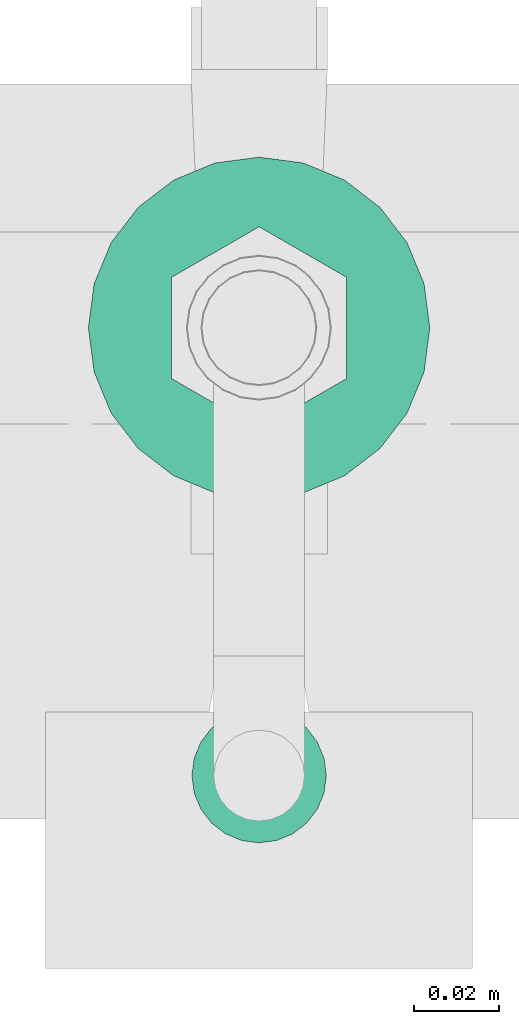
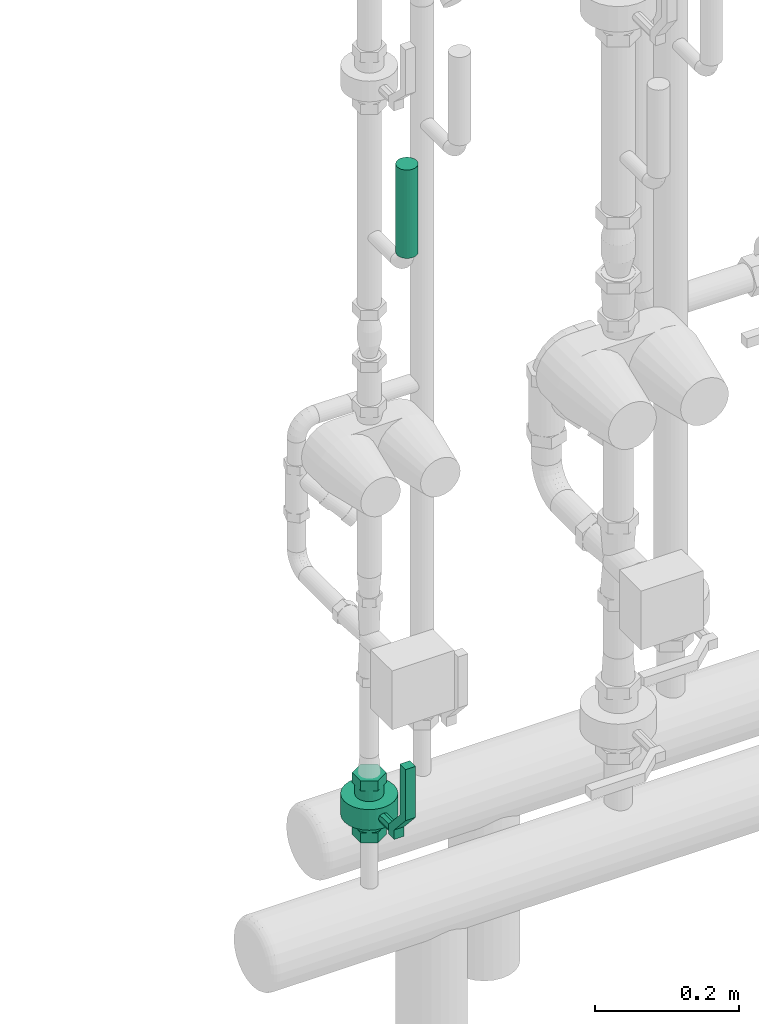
# One storey, part 79 of 374: 1 distribution control element, 1 flow controller.
"""IFC2X3 building model written with IfcOpenShell, lengths in metres."""

from ifc_helpers import new_model, si_unit, direction, origin, place, context, subcontext, project, spatial, open_shell, surface_model, source, transform, mapped, element, save


model = new_model("IFC2X3")

# Units and contexts
model_context = context("Model", 3, precision=1e-05, world=origin(), true_north=direction((-0.4480736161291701, 0.8939966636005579)))
body_context = subcontext(model_context, "Body", "Model", "MODEL_VIEW")
ifc_project = project(units=[si_unit("LENGTHUNIT", "METRE"), si_unit("AREAUNIT", "SQUARE_METRE"), si_unit("VOLUMEUNIT", "CUBIC_METRE"), si_unit("PLANEANGLEUNIT", "RADIAN"), si_unit("THERMODYNAMICTEMPERATUREUNIT", "KELVIN"), si_unit("MASSUNIT", "GRAM", prefix="KILO"), si_unit("TIMEUNIT", "SECOND")], contexts=[model_context])

# Site, building, storey
site_placement = place(None, origin())
site = spatial("IfcSite", under=ifc_project, at=site_placement, Name="Site 1", CompositionType="ELEMENT")
building_placement = place(site_placement, origin())
building = spatial("IfcBuilding", under=site, at=building_placement, Name="Undefined", CompositionType="ELEMENT")
storey_placement = place(building_placement, origin())
storey = spatial("IfcBuildingStorey", under=building, at=storey_placement, Name="Rez de chauss\x8ee", CompositionType="ELEMENT", Elevation=0.0)

# Flow controller
shared_shape_1 = source(origin(), body_context, "Body", "SurfaceModel", [
    surface_model("IfcFaceBasedSurfaceModel", [(0.0, 0.0, 0.0), (0.016000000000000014, 0.0, 0.0), (0.016000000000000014, 0.015999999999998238, 0.0), (0.0, 0.015999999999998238, 0.0), (0.016000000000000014, 0.0, 0.016000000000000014), (0.016000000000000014, 0.015999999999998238, 0.016000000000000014), (0.0, 0.0, 0.016000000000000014), (0.0, 0.015999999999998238, 0.016000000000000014), (-0.03533333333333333, 0.0, 0.04800000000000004), (-0.03533333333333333, 0.015999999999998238, 0.04800000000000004), (-0.122, 0.0, 0.04800000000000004), (-0.122, 0.015999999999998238, 0.04800000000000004), (-0.122, 0.0, 0.03200000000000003), (-0.122, 0.015999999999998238, 0.03200000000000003), (-0.03533333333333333, 0.0, 0.03200000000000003), (-0.03533333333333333, 0.015999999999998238, 0.03200000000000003), (0.060500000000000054, 0.02850000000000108, -0.0788356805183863), (0.060500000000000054, 0.02850000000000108, -0.05516431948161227), (0.04370000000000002, 0.02850000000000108, -0.05516431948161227), (0.04370000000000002, 0.02850000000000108, -0.0788356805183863), (0.060500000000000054, 0.008000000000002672, -0.0906713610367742), (0.04370000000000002, 0.008000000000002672, -0.0906713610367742), (0.060500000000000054, -0.012500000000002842, -0.0788356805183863), (0.04370000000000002, -0.012500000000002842, -0.0788356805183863), (0.060500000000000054, -0.012500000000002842, -0.05516431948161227), (0.04370000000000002, -0.012500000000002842, -0.05516431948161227), (0.060500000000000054, 0.008000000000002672, -0.043328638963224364), (0.04370000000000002, 0.008000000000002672, -0.043328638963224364), (0.04370000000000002, -0.012500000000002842, -0.06700000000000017), (0.04370000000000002, -0.011801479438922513, -0.06169420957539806), (0.025500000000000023, -0.011801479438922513, -0.06169420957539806), (0.025500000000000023, -0.012500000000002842, -0.06700000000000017), (0.04370000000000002, -0.009753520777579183, -0.05674999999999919), (0.025500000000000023, -0.009753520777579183, -0.05674999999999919), (0.04370000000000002, -0.006495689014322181, -0.05250431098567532), (0.025500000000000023, -0.006495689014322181, -0.05250431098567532), (0.04370000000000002, -0.002250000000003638, -0.049246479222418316), (0.025500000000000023, -0.002250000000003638, -0.049246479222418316), (0.04370000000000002, 0.0026942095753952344, -0.04719852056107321), (0.025500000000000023, 0.0026942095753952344, -0.04719852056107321), (0.04370000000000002, 0.008000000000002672, -0.046499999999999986), (0.025500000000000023, 0.008000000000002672, -0.046499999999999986), (0.04370000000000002, 0.013305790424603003, -0.04719852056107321), (0.025500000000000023, 0.013305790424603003, -0.04719852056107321), (0.04370000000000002, 0.018250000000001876, -0.049246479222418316), (0.025500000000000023, 0.018250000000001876, -0.049246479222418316), (0.04370000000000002, 0.02249568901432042, -0.05250431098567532), (0.025500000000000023, 0.02249568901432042, -0.05250431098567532), (0.04370000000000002, 0.02575352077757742, -0.05674999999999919), (0.025500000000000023, 0.02575352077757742, -0.05674999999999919), (0.04370000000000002, 0.02780147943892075, -0.06169420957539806), (0.025500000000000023, 0.02780147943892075, -0.06169420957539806), (0.04370000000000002, 0.02850000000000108, -0.06700000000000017), (0.025500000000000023, 0.02850000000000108, -0.06700000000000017), (0.04370000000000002, 0.02780147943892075, -0.0723057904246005), (0.025500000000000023, 0.02780147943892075, -0.0723057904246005), (0.04370000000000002, 0.02575352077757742, -0.07724999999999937), (0.025500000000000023, 0.02575352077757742, -0.07724999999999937), (0.04370000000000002, 0.02249568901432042, -0.08149568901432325), (0.025500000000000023, 0.02249568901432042, -0.08149568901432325), (0.04370000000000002, 0.018250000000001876, -0.08475352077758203), (0.025500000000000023, 0.018250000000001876, -0.08475352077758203), (0.04370000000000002, 0.013305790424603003, -0.08680147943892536), (0.025500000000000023, 0.013305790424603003, -0.08680147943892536), (0.04370000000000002, 0.008000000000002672, -0.08749999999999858), (0.025500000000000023, 0.008000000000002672, -0.08749999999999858), (0.04370000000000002, 0.0026942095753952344, -0.08680147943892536), (0.025500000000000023, 0.0026942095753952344, -0.08680147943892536), (0.04370000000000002, -0.002250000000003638, -0.08475352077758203), (0.025500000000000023, -0.002250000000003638, -0.08475352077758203), (0.04370000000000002, -0.006495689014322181, -0.08149568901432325), (0.025500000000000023, -0.006495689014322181, -0.08149568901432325), (0.04370000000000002, -0.009753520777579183, -0.07724999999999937), (0.025500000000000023, -0.009753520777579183, -0.07724999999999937), (0.04370000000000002, -0.011801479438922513, -0.0723057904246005), (0.025500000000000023, -0.011801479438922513, -0.0723057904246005), (0.025500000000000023, -0.03200000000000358, -0.06700000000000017), (0.025500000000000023, -0.030637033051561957, -0.05664723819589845), (-0.009499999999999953, -0.030637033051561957, -0.05664723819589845), (-0.009499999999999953, -0.03200000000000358, -0.06700000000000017), (0.025500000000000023, -0.02664101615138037, -0.04699999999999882), (-0.009499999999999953, -0.02664101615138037, -0.04699999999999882), (0.025500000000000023, -0.020284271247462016, -0.03871572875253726), (-0.009499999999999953, -0.020284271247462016, -0.03871572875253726), (0.025500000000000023, -0.012000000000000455, -0.03235898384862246), (-0.009499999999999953, -0.012000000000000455, -0.03235898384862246), (0.025500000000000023, -0.002352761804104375, -0.028362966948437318), (-0.009499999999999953, -0.002352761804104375, -0.028362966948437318), (0.025500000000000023, 0.008000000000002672, -0.026999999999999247), (-0.009499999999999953, 0.008000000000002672, -0.026999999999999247), (0.025500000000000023, 0.018352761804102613, -0.028362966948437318), (-0.009499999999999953, 0.018352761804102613, -0.028362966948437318), (0.025500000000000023, 0.027999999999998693, -0.03235898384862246), (-0.009499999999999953, 0.027999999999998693, -0.03235898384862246), (0.025500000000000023, 0.036284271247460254, -0.03871572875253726), (-0.009499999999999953, 0.036284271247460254, -0.03871572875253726), (0.025500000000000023, 0.04264101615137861, -0.04699999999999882), (-0.009499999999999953, 0.04264101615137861, -0.04699999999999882), (0.025500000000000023, 0.046637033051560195, -0.05664723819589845), (-0.009499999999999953, 0.046637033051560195, -0.05664723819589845), (0.025500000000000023, 0.04800000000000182, -0.06700000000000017), (-0.009499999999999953, 0.04800000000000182, -0.06700000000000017), (0.025500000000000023, 0.046637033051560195, -0.07735276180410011), (-0.009499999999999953, 0.046637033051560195, -0.07735276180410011), (0.025500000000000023, 0.04264101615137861, -0.08699999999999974), (-0.009499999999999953, 0.04264101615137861, -0.08699999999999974), (0.025500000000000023, 0.036284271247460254, -0.0952842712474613), (-0.009499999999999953, 0.036284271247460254, -0.0952842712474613), (0.025500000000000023, 0.027999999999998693, -0.10164101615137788), (-0.009499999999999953, 0.027999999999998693, -0.10164101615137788), (0.025500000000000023, 0.018352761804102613, -0.10563703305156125), (-0.009499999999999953, 0.018352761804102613, -0.10563703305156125), (0.025500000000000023, 0.008000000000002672, -0.10699999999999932), (-0.009499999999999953, 0.008000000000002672, -0.10699999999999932), (0.025500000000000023, -0.002352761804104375, -0.10563703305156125), (-0.009499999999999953, -0.002352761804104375, -0.10563703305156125), (0.025500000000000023, -0.012000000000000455, -0.10164101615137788), (-0.009499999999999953, -0.012000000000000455, -0.10164101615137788), (0.025500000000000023, -0.020284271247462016, -0.0952842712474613), (-0.009499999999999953, -0.020284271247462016, -0.0952842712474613), (0.025500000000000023, -0.02664101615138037, -0.08699999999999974), (-0.009499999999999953, -0.02664101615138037, -0.08699999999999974), (0.025500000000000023, -0.030637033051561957, -0.07735276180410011), (-0.009499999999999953, -0.030637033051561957, -0.07735276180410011), (0.025500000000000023, 0.008000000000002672, -0.06700000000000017), (-0.009499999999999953, 0.008000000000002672, -0.06700000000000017), (-0.009499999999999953, -0.012500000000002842, -0.06700000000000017), (-0.009499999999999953, -0.011801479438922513, -0.06169420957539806), (-0.027699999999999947, -0.011801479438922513, -0.06169420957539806), (-0.027699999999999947, -0.012500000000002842, -0.06700000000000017), (-0.009499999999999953, -0.009753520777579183, -0.05674999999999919), (-0.027699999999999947, -0.009753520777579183, -0.05674999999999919), (-0.009499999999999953, -0.006495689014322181, -0.05250431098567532), (-0.027699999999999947, -0.006495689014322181, -0.05250431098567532), (-0.009499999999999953, -0.002250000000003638, -0.049246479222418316), (-0.027699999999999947, -0.002250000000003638, -0.049246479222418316), (-0.009499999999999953, 0.0026942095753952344, -0.04719852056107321), (-0.027699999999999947, 0.0026942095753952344, -0.04719852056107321), (-0.009499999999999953, 0.008000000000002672, -0.046499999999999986), (-0.027699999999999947, 0.008000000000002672, -0.046499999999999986), (-0.009499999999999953, 0.013305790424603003, -0.04719852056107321), (-0.027699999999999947, 0.013305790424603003, -0.04719852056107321), (-0.009499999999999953, 0.018250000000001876, -0.049246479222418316), (-0.027699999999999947, 0.018250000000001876, -0.049246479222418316), (-0.009499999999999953, 0.02249568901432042, -0.05250431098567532), (-0.027699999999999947, 0.02249568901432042, -0.05250431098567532), (-0.009499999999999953, 0.02575352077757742, -0.05674999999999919), (-0.027699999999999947, 0.02575352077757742, -0.05674999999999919), (-0.009499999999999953, 0.02780147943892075, -0.06169420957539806), (-0.027699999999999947, 0.02780147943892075, -0.06169420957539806), (-0.009499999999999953, 0.02850000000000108, -0.06700000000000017), (-0.027699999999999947, 0.02850000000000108, -0.06700000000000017), (-0.009499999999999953, 0.02780147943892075, -0.0723057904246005), (-0.027699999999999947, 0.02780147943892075, -0.0723057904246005), (-0.009499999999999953, 0.02575352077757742, -0.07724999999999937), (-0.027699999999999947, 0.02575352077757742, -0.07724999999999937), (-0.009499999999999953, 0.02249568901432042, -0.08149568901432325), (-0.027699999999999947, 0.02249568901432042, -0.08149568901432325), (-0.009499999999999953, 0.018250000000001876, -0.08475352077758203), (-0.027699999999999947, 0.018250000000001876, -0.08475352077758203), (-0.009499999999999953, 0.013305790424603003, -0.08680147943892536), (-0.027699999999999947, 0.013305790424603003, -0.08680147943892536), (-0.009499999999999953, 0.008000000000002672, -0.08749999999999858), (-0.027699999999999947, 0.008000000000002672, -0.08749999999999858), (-0.009499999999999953, 0.0026942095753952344, -0.08680147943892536), (-0.027699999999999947, 0.0026942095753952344, -0.08680147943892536), (-0.009499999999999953, -0.002250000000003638, -0.08475352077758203), (-0.027699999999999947, -0.002250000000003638, -0.08475352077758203), (-0.009499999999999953, -0.006495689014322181, -0.08149568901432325), (-0.027699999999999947, -0.006495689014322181, -0.08149568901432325), (-0.009499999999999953, -0.009753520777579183, -0.07724999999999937), (-0.027699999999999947, -0.009753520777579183, -0.07724999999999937), (-0.009499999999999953, -0.011801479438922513, -0.0723057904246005), (-0.027699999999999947, -0.011801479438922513, -0.0723057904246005), (-0.027699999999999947, 0.02850000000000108, -0.0788356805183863), (-0.027699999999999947, 0.02850000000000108, -0.05516431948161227), (-0.04449999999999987, 0.02850000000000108, -0.05516431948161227), (-0.04449999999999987, 0.02850000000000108, -0.0788356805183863), (-0.027699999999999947, 0.008000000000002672, -0.0906713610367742), (-0.04449999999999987, 0.008000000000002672, -0.0906713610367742), (-0.027699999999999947, -0.012500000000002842, -0.0788356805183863), (-0.04449999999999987, -0.012500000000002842, -0.0788356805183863), (-0.027699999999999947, -0.012500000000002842, -0.05516431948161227), (-0.04449999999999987, -0.012500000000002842, -0.05516431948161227), (-0.027699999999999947, 0.008000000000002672, -0.043328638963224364), (-0.04449999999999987, 0.008000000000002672, -0.043328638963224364), (0.0, 0.008000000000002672, -0.06700000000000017), (0.002343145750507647, 0.002343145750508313, -0.06700000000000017), (0.002343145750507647, 0.002343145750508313, 0.0), (0.0, 0.008, 0.0), (0.008000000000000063, 0.0, -0.06700000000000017), (0.008000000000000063, 0.0, 0.0), (0.013656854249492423, 0.002343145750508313, -0.06700000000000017), (0.013656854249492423, 0.002343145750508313, 0.0), (0.016000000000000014, 0.008000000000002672, -0.06700000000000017), (0.016000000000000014, 0.008000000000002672, 0.0), (0.013656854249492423, 0.013656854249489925, -0.06700000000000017), (0.013656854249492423, 0.013656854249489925, 0.0), (0.008000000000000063, 0.015999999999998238, -0.06700000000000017), (0.008000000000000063, 0.015999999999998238, 0.0), (0.002343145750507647, 0.013656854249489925, -0.06700000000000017), (0.002343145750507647, 0.013656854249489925, 0.0)], [open_shell([[[0, 1, 2, 3]], [[1, 4, 5, 2]], [[4, 6, 7, 5]], [[6, 8, 9, 7]], [[8, 10, 11, 9]], [[10, 12, 13, 11]], [[12, 14, 15, 13]], [[14, 0, 3, 15]], [[3, 7, 2]], [[7, 3, 9]], [[15, 9, 3]], [[9, 15, 11]], [[13, 11, 15]], [[5, 2, 7]], [[1, 6, 0]], [[8, 0, 6]], [[0, 8, 14]], [[10, 14, 8]], [[14, 10, 12]], [[6, 1, 4]], [[16, 17, 18, 19]], [[20, 16, 19, 21]], [[22, 20, 21, 23]], [[24, 22, 23, 25]], [[26, 24, 25, 27]], [[17, 26, 27, 18]], [[17, 16, 20]], [[17, 20, 22]], [[17, 22, 24]], [[17, 24, 26]], [[18, 21, 19]], [[18, 23, 21]], [[18, 25, 23]], [[18, 27, 25]], [[28, 29, 30, 31]], [[29, 32, 33, 30]], [[32, 34, 35, 33]], [[34, 36, 37, 35]], [[36, 38, 39, 37]], [[38, 40, 41, 39]], [[40, 42, 43, 41]], [[42, 44, 45, 43]], [[44, 46, 47, 45]], [[46, 48, 49, 47]], [[48, 50, 51, 49]], [[50, 52, 53, 51]], [[52, 54, 55, 53]], [[54, 56, 57, 55]], [[56, 58, 59, 57]], [[58, 60, 61, 59]], [[60, 62, 63, 61]], [[62, 64, 65, 63]], [[64, 66, 67, 65]], [[66, 68, 69, 67]], [[68, 70, 71, 69]], [[70, 72, 73, 71]], [[72, 74, 75, 73]], [[74, 28, 31, 75]], [[76, 77, 78, 79]], [[77, 80, 81, 78]], [[80, 82, 83, 81]], [[82, 84, 85, 83]], [[84, 86, 87, 85]], [[86, 88, 89, 87]], [[88, 90, 91, 89]], [[90, 92, 93, 91]], [[92, 94, 95, 93]], [[94, 96, 97, 95]], [[96, 98, 99, 97]], [[98, 100, 101, 99]], [[100, 102, 103, 101]], [[102, 104, 105, 103]], [[104, 106, 107, 105]], [[106, 108, 109, 107]], [[108, 110, 111, 109]], [[110, 112, 113, 111]], [[112, 114, 115, 113]], [[114, 116, 117, 115]], [[116, 118, 119, 117]], [[118, 120, 121, 119]], [[120, 122, 123, 121]], [[122, 76, 79, 123]], [[124, 77, 76]], [[124, 80, 77]], [[124, 82, 80]], [[124, 84, 82]], [[124, 86, 84]], [[124, 88, 86]], [[124, 90, 88]], [[124, 92, 90]], [[124, 94, 92]], [[124, 96, 94]], [[124, 98, 96]], [[124, 100, 98]], [[124, 102, 100]], [[124, 104, 102]], [[124, 106, 104]], [[124, 108, 106]], [[124, 110, 108]], [[124, 112, 110]], [[124, 114, 112]], [[124, 116, 114]], [[124, 118, 116]], [[124, 120, 118]], [[124, 122, 120]], [[124, 76, 122]], [[125, 123, 79]], [[125, 121, 123]], [[125, 119, 121]], [[125, 117, 119]], [[125, 115, 117]], [[125, 113, 115]], [[125, 111, 113]], [[125, 109, 111]], [[125, 107, 109]], [[125, 105, 107]], [[125, 103, 105]], [[125, 101, 103]], [[125, 99, 101]], [[125, 97, 99]], [[125, 95, 97]], [[125, 93, 95]], [[125, 91, 93]], [[125, 89, 91]], [[125, 87, 89]], [[125, 85, 87]], [[125, 83, 85]], [[125, 81, 83]], [[125, 78, 81]], [[125, 79, 78]], [[126, 127, 128, 129]], [[127, 130, 131, 128]], [[130, 132, 133, 131]], [[132, 134, 135, 133]], [[134, 136, 137, 135]], [[136, 138, 139, 137]], [[138, 140, 141, 139]], [[140, 142, 143, 141]], [[142, 144, 145, 143]], [[144, 146, 147, 145]], [[146, 148, 149, 147]], [[148, 150, 151, 149]], [[150, 152, 153, 151]], [[152, 154, 155, 153]], [[154, 156, 157, 155]], [[156, 158, 159, 157]], [[158, 160, 161, 159]], [[160, 162, 163, 161]], [[162, 164, 165, 163]], [[164, 166, 167, 165]], [[166, 168, 169, 167]], [[168, 170, 171, 169]], [[170, 172, 173, 171]], [[172, 126, 129, 173]], [[174, 175, 176, 177]], [[178, 174, 177, 179]], [[180, 178, 179, 181]], [[182, 180, 181, 183]], [[184, 182, 183, 185]], [[175, 184, 185, 176]], [[175, 174, 178]], [[175, 178, 180]], [[175, 180, 182]], [[175, 182, 184]], [[176, 179, 177]], [[176, 181, 179]], [[176, 183, 181]], [[176, 185, 183]], [[186, 187, 188, 189]], [[187, 190, 191, 188]], [[190, 192, 193, 191]], [[192, 194, 195, 193]], [[194, 196, 197, 195]], [[196, 198, 199, 197]], [[198, 200, 201, 199]], [[200, 186, 189, 201]]])]),
])
flow_controller_placement = place(storey_placement, origin())
element("IfcFlowController", 1, at=flow_controller_placement, inside=storey, Name="Robinet à boisseau sphérique", ObjectType="Robinet à boisseau sphérique", context=body_context, shape_type="MappedRepresentation", body=[
    mapped(shared_shape_1, transform((52.04956201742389, 10.651037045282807, 0.5008500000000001), x_axis=(0.0, 0.0, -1.0), y_axis=(1.0, 0.0, 0.0), z_axis=(0.0, -1.0, 0.0))),
])

# Distribution control element
shared_shape_2 = source(origin(), body_context, "Body", "SurfaceModel", [
    surface_model("IfcFaceBasedSurfaceModel", [(0.0, 0.004111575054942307, -1.33226763e-15), (0.0, 0.0, 0.0), (0.1499999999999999, 7.105427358e-15, -4.4408921e-16), (0.1499999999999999, 0.004111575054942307, -1.33226763e-15), (0.0, -0.003971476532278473, -0.0010641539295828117), (0.1499999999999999, -0.003971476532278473, -0.0010641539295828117), (0.0, -0.007532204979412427, -0.003119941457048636), (0.1499999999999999, -0.007532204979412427, -0.003119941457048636), (0.0, -0.01043952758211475, -0.006027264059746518), (0.1499999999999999, -0.01043952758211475, -0.006027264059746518), (0.0, -0.01249531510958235, -0.009587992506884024), (0.1499999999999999, -0.01249531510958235, -0.009587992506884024), (0.0, -0.013559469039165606, -0.013559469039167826), (0.1499999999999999, -0.013559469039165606, -0.013559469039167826), (0.0, -0.013559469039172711, -0.017671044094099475), (0.1499999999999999, -0.013559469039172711, -0.017671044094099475), (0.0, -0.01249531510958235, -0.021642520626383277), (0.1499999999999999, -0.01249531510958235, -0.021642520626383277), (0.0, -0.010439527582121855, -0.025203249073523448), (0.1499999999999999, -0.010439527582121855, -0.025203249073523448), (0.0, -0.007532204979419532, -0.028110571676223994), (0.1499999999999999, -0.007532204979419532, -0.028110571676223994), (0.0, -0.003971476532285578, -0.030166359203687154), (0.1499999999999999, -0.003971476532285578, -0.030166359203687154), (0.0, 7.105427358e-15, -0.031230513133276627), (0.1499999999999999, 7.105427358e-15, -0.031230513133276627), (0.0, 0.004111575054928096, -0.031230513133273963), (0.1499999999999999, 0.004111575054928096, -0.031230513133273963), (0.0, 0.00808305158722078, -0.03016635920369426), (0.1499999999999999, 0.00808305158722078, -0.03016635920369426), (0.0, 0.011643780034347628, -0.028110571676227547), (0.1499999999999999, 0.011643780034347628, -0.028110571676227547), (0.0, 0.014551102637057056, -0.02520324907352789), (0.1499999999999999, 0.014551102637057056, -0.02520324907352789), (0.0, 0.01660689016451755, -0.02164252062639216), (0.1499999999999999, 0.01660689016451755, -0.02164252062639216), (0.0, 0.017671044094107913, -0.01767104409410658), (0.1499999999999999, 0.017671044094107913, -0.01767104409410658), (0.0, 0.017671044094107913, -0.013559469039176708), (0.1499999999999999, 0.017671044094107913, -0.013559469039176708), (0.0, 0.016606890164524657, -0.00958799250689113), (0.1499999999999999, 0.016606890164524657, -0.00958799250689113), (0.0, 0.014551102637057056, -0.006027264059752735), (0.1499999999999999, 0.014551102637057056, -0.006027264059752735), (0.0, 0.01164378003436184, -0.003119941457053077), (0.1499999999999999, 0.01164378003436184, -0.003119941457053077), (0.0, 0.00808305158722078, -0.0010641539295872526), (0.1499999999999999, 0.00808305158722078, -0.0010641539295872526), (0.0, 0.002055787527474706, -0.015615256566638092), (0.1499999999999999, 0.002055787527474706, -0.015615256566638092)], [open_shell([[[0, 1, 2, 3]], [[1, 4, 5, 2]], [[4, 6, 7, 5]], [[6, 8, 9, 7]], [[8, 10, 11, 9]], [[10, 12, 13, 11]], [[12, 14, 15, 13]], [[14, 16, 17, 15]], [[16, 18, 19, 17]], [[18, 20, 21, 19]], [[20, 22, 23, 21]], [[22, 24, 25, 23]], [[24, 26, 27, 25]], [[26, 28, 29, 27]], [[28, 30, 31, 29]], [[30, 32, 33, 31]], [[32, 34, 35, 33]], [[34, 36, 37, 35]], [[36, 38, 39, 37]], [[38, 40, 41, 39]], [[40, 42, 43, 41]], [[42, 44, 45, 43]], [[44, 46, 47, 45]], [[46, 0, 3, 47]], [[48, 1, 0]], [[48, 4, 1]], [[48, 6, 4]], [[48, 8, 6]], [[48, 10, 8]], [[48, 12, 10]], [[48, 14, 12]], [[48, 16, 14]], [[48, 18, 16]], [[48, 20, 18]], [[48, 22, 20]], [[48, 24, 22]], [[48, 26, 24]], [[48, 28, 26]], [[48, 30, 28]], [[48, 32, 30]], [[48, 34, 32]], [[48, 36, 34]], [[48, 38, 36]], [[48, 40, 38]], [[48, 42, 40]], [[48, 44, 42]], [[48, 46, 44]], [[48, 0, 46]], [[49, 47, 3]], [[49, 45, 47]], [[49, 43, 45]], [[49, 41, 43]], [[49, 39, 41]], [[49, 37, 39]], [[49, 35, 37]], [[49, 33, 35]], [[49, 31, 33]], [[49, 29, 31]], [[49, 27, 29]], [[49, 25, 27]], [[49, 23, 25]], [[49, 21, 23]], [[49, 19, 21]], [[49, 17, 19]], [[49, 15, 17]], [[49, 13, 15]], [[49, 11, 13]], [[49, 9, 11]], [[49, 7, 9]], [[49, 5, 7]], [[49, 2, 5]], [[49, 3, 2]]])]),
])
distribution_control_element_placement = place(storey_placement, origin())
element("IfcDistributionControlElement", 2, at=distribution_control_element_placement, inside=storey, Name="Thermomètre droit", ObjectType="Thermomètre droit", context=body_context, shape_type="MappedRepresentation", body=[
    mapped(shared_shape_2, transform((52.05348561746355, 10.628400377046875, 1.4932197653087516), x_axis=(0.0, 0.0, 1.0), y_axis=(0.9914448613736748, 0.13052619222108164, 0.0), z_axis=(-0.13052619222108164, 0.9914448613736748, 0.0))),
])

save(model, "model.ifc")
